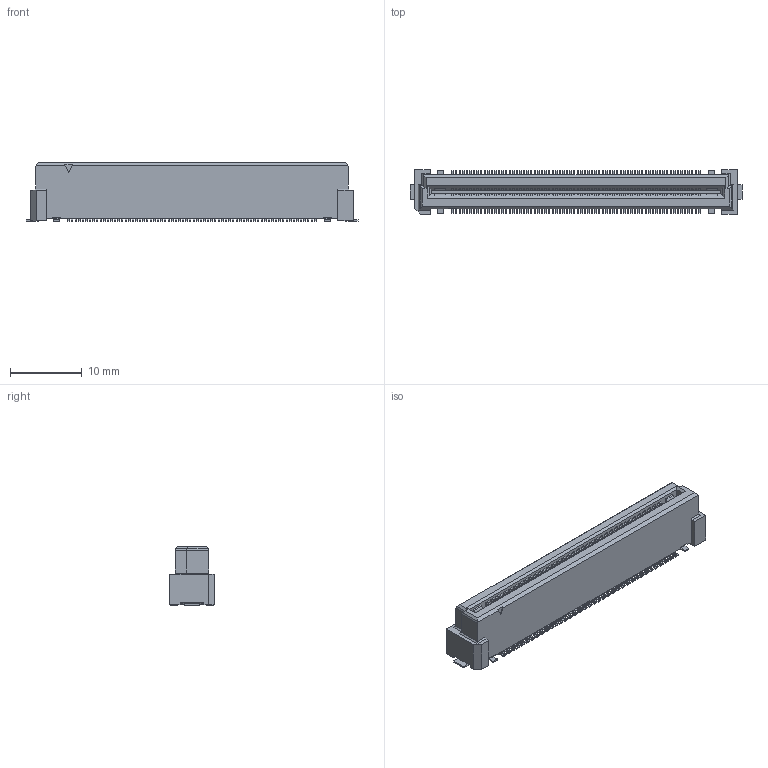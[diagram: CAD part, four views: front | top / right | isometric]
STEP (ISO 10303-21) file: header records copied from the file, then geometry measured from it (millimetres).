
FILE_DESCRIPTION(('Creo Elements/Direct Modeling STEP Export'),'2;1');
FILE_NAME('P3E604_DT10E-140S-10-T.stp','2024-03-12T10:44:49',(''),(''),'Creo Elements/Direct Modeling STEP processor for AP214 (Solid Model)','Creo Elements/Direct Modeling 20.6 25-Mar-2023 (C) Parametric Technology GmbH','');
FILE_SCHEMA(('AUTOMOTIVE_DESIGN { 1 0 10303 214 1 1 1 1 }'));
Products named in the file (2): P3E604_DT10E-140S-10-T
Assembly tree (1 placements, depth 2):
  P3E604_DT10E-140S-10-T
    P3E604_DT10E-140S-10-T
Bounding box: 46.4 x 6.2 x 8.18 mm (x, y, z)
Volume: 1472.5 mm3; surface area: 1789.2 mm2
Topology: 1 solids, 1 shells, 5211 faces, 14842 edges, 9788 vertices
Faces by surface type: plane 4319, cylinder 884, bspline 8
Entity records: 165169 total; most frequent: CARTESIAN_POINT 29849, ORIENTED_EDGE 29684, DIRECTION 26098, EDGE_CURVE 14842, VECTOR 12200, LINE 12200, VERTEX_POINT 9788, AXIS2_PLACEMENT_3D 6949
